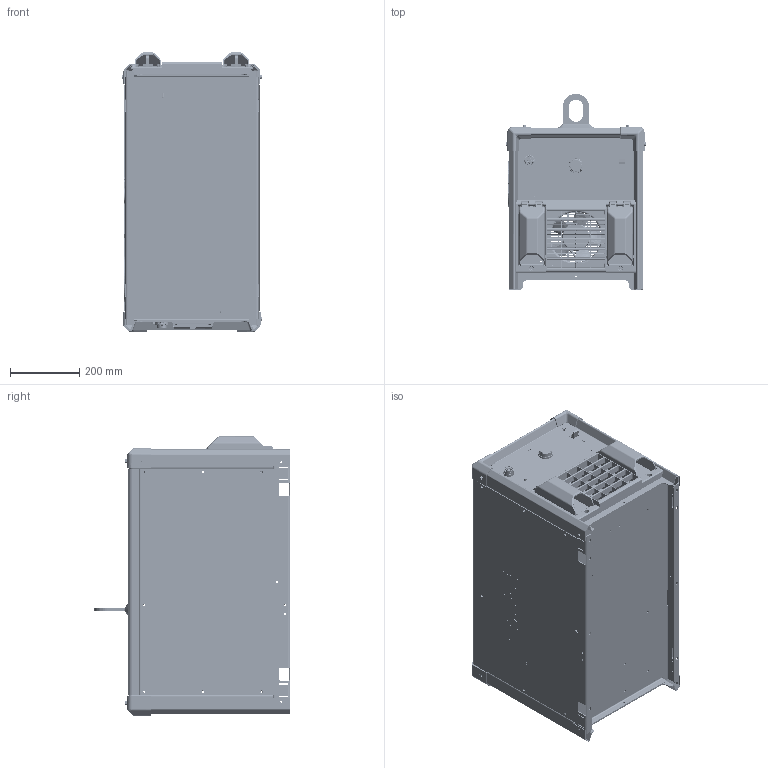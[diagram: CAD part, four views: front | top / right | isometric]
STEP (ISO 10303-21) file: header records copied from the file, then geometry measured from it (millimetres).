
FILE_DESCRIPTION (( 'STEP AP214' ), '1' );
FILE_NAME ('907785.STEP', '2020-03-03T20:51:00', ( '' ), ( '' ), 'SwSTEP 2.0', 'SolidWorks 2017', '' );
FILE_SCHEMA (( 'AUTOMOTIVE_DESIGN' ));
Length unit declared in the file: inch
Products named in the file (84): oval head_ai_CR-OHMS 0.138-32x0.5x0.5-N; 278283; 266959; 151542; 152461; 263559; 156734; 147195; 285072_CHS440-10; 274964; 285377; 279821; 154022-1; 602154; 234534; 285827; 213072; 280240; 241484; 285244; 281942 - Nut; 285378_DefaultSM-FLAT-PATTERN; 278284; 211907; 285795; 220580_220580; 278286; 601966; 154022-2; 286796; 183387; 083432; 232914; 284307; 280242; 285794; 282080; pan cross head_ai_CR-PHMS 0.138-32x0.625x0.625-N; 604176; Label Die 06 -10.0 x 7.0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
Assembly tree (145 placements, depth 4):
  907785
    282542
    286796
      284307
      093995
      604176
      083432
      265204
      281942
        281942-001
        244239-002
      281942 - Nut
      244237
        244237-002_bent
        244237-001
      154022_Closed
        154022-1
        154022-2
        154022-3
      280240
        280242
      278284  x2
      283059
      pan cross head_ai_CR-PHMS 0.138-32x0.625x0.625-N  x2
      oval head_ai_CR-OHMS 0.138-32x0.5x0.5-N  x2
      147195  x2
      604224  x2
      057359
      220580_220580
    285794
      285795
        285795
        248788
        250955  x8
        279821  x8
        285072_CHS440-10  x2
      263560
      279221
      263559
      284291
      213072
        213072-1
        213072-2
      276855
      285789
        285790
      DDK_CE01-2A18-19ASC-F0(D95)
      278284  x2
      285244
      286218-1
      286218-2
      010909  x2
      241484  x2
      267900  x8
      602154  x4
      604224  x4
      152461  x4
      213134
      229314  x16
      211907  x2
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Bounding box: 407.57 x 567.5 x 807.44 mm (x, y, z)
Volume: 6027050.1 mm3; surface area: 5458914.4 mm2
Topology: 179 solids, 180 shells, 25318 faces, 66135 edges, 41833 vertices
Faces by surface type: plane 12625, cylinder 8503, bspline 2464, cone 752, torus 651, sphere 323
Entity records: 933513 total; most frequent: CARTESIAN_POINT 229251, ORIENTED_EDGE 120432, DIRECTION 111091, EDGE_CURVE 60216, VERTEX_POINT 38288, LINE 37121, VECTOR 37121, AXIS2_PLACEMENT_3D 36985
